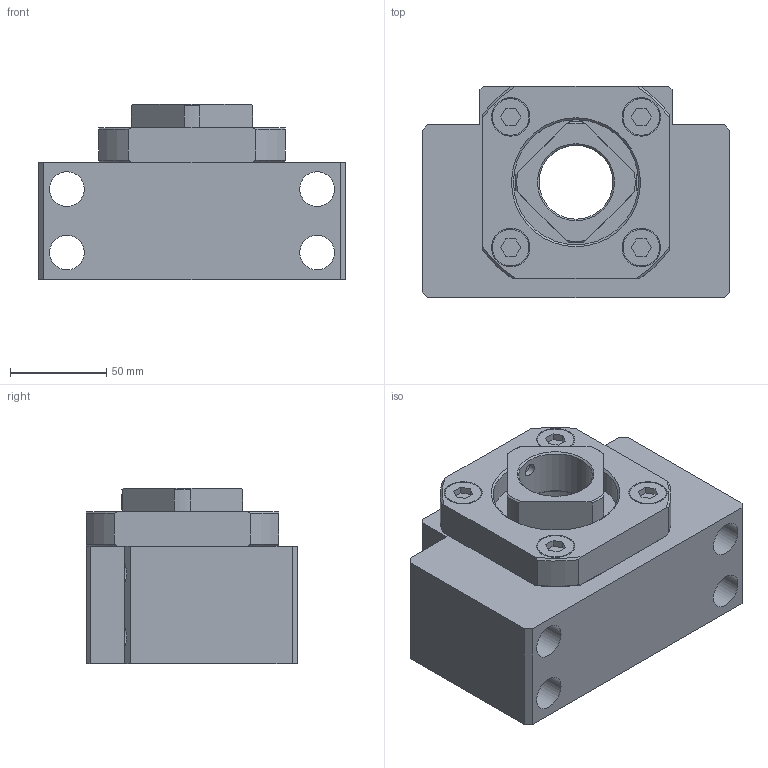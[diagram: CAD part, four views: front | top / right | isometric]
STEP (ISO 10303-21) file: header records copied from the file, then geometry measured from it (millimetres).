
FILE_DESCRIPTION(/* description */ ('STEP AP203'),/* implementation_level */ '2;1');
FILE_NAME(/* name */ 'BK40Yes',/* time_stamp */ '2025-06-11T07:07:22+02:00',/* author */ ('License CC BY-ND 4.0'),/* organization */ ('CADENAS'),/* preprocessor_version */ 'ST-DEVELOPER v19.3',/* originating_system */ 'PARTsolutions',/* authorisation */ ' ');
FILE_SCHEMA (('CONFIG_CONTROL_DESIGN'));
Length unit declared in the file: millimetre
Products named in the file (4): BK40Yes; BK 40; BK 40collar; RN 40
Assembly tree (4 placements, depth 2):
  BK40Yes
    BK 40
    BK 40collar  x2
    RN 40
Bounding box: 160 x 110 x 91 mm (x, y, z)
Volume: 957281.1 mm3; surface area: 151870.2 mm2
Topology: 4 solids, 4 shells, 159 faces, 389 edges, 259 vertices
Faces by surface type: plane 97, cylinder 41, cone 21
Full cylindrical faces by diameter (mm): 6.647 x1, 8 x1, 18 x4, 19 x4, 20 x4, 26 x4, 38.376 x1, 40 x3, 49.4 x4, 65 x2, 65.1 x1
Entity records: 4567 total; most frequent: CARTESIAN_POINT 906, DIRECTION 726, ORIENTED_EDGE 686, EDGE_CURVE 343, AXIS2_PLACEMENT_3D 269, VERTEX_POINT 247, EDGE_LOOP 222, FACE_BOUND 222
